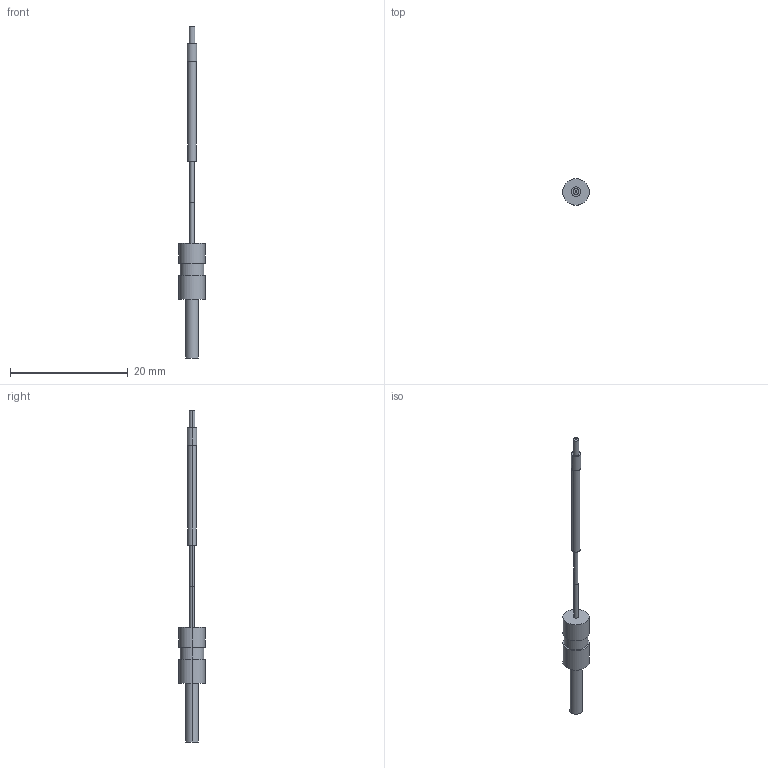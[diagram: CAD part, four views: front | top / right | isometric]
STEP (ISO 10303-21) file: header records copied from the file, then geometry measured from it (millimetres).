
FILE_DESCRIPTION (( 'STEP AP203' ), '1' );
FILE_NAME ('FT-PS1.STEP', '2005-09-08T02:21:23', ( '' ), ( '' ), 'SwSTEP 2.0', 'SolidWorks 2004073', '' );
FILE_SCHEMA (( 'CONFIG_CONTROL_DESIGN' ));
Length unit declared in the file: millimetre
Products named in the file (1): FT-PS1
Bounding box: 4.5 x 4.5 x 56.5 mm (x, y, z)
Volume: 222.4 mm3; surface area: 372.9 mm2
Topology: 2 solids, 2 shells, 32 faces, 60 edges, 40 vertices
Faces by surface type: cylinder 20, plane 12
Entity records: 899 total; most frequent: DIRECTION 166, CARTESIAN_POINT 133, ORIENTED_EDGE 120, AXIS2_PLACEMENT_3D 73, EDGE_CURVE 60, EDGE_LOOP 40, VERTEX_POINT 40, CIRCLE 40
